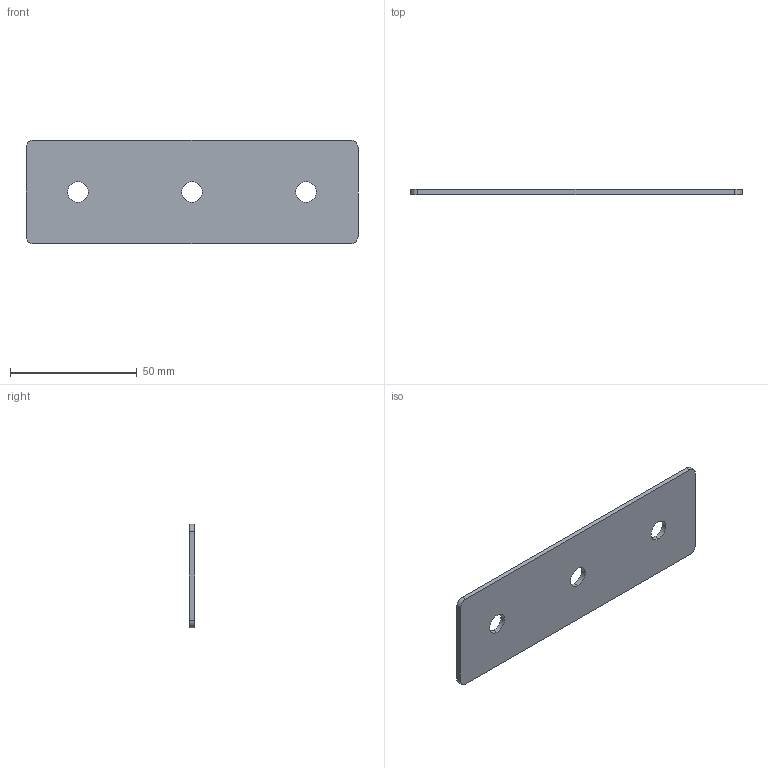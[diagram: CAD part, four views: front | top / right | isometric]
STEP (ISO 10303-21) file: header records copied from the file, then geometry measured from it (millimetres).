
FILE_DESCRIPTION (( 'STEP AP203' ), '1' );
FILE_NAME ('ﾏ-3-45.STEP', '2016-07-23T14:43:17', ( '' ), ( '' ), 'SwSTEP 2.0', 'SolidWorks 2014', '' );
FILE_SCHEMA (( 'CONFIG_CONTROL_DESIGN' ));
Length unit declared in the file: millimetre
Products named in the file (1): ﾏ-3-45
Bounding box: 131 x 2 x 41 mm (x, y, z)
Volume: 10409.9 mm3; surface area: 11242.2 mm2
Topology: 1 solids, 1 shells, 16 faces, 42 edges, 28 vertices
Faces by surface type: cylinder 10, plane 6
Entity records: 595 total; most frequent: DIRECTION 96, CARTESIAN_POINT 87, ORIENTED_EDGE 84, EDGE_CURVE 42, AXIS2_PLACEMENT_3D 37, VERTEX_POINT 28, VECTOR 22, EDGE_LOOP 22
